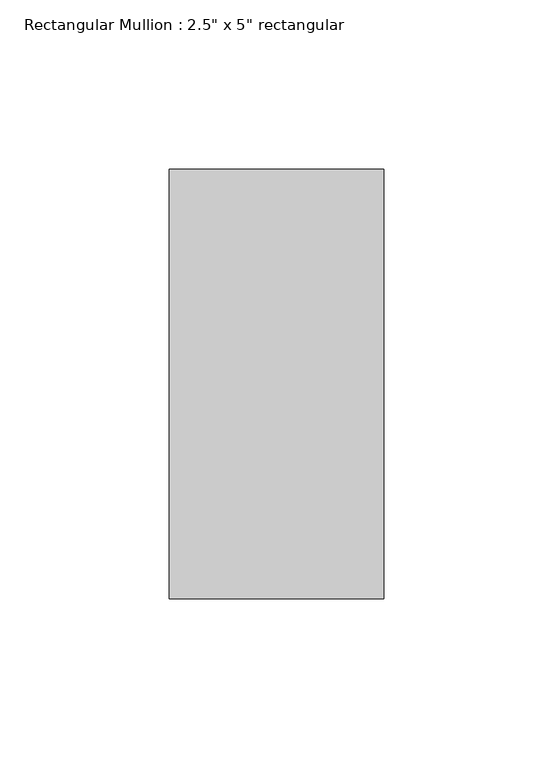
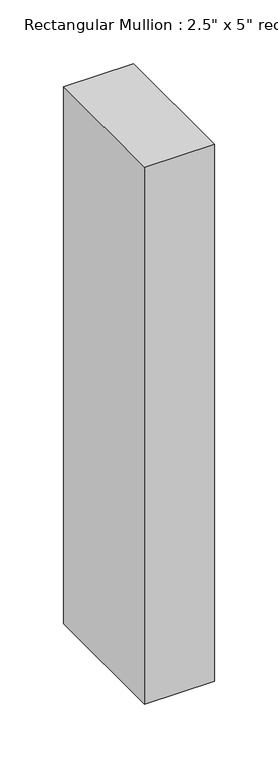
"""IFC4 building model written with IfcOpenShell, lengths in millimetres: member geometry."""

from ifc_helpers import new_model, si_unit, frame, origin, place, context, project, spatial, polyline, outline, extrude, source, transform, mapped, element, save


def member_aaa03826(model_context):
    return source(origin(), model_context, "Body", "SweptSolid", [
        extrude(outline(polyline([(31.75, 63.5), (31.75, -63.5), (-31.75, -63.5), (-31.75, 63.5), (31.75, 63.5)])), frame((0.0, 0.0, -514.35), z_axis=(0.0, 0.0, 1.0), x_axis=(1.0, 0.0, 0.0)), (0.0, 0.0, 1.0), 514.35),
    ])


if __name__ == "__main__":
    model = new_model("IFC4")
    model_context = context("Model", 3, world=origin())
    ifc_project = project(units=[si_unit("LENGTHUNIT", "METRE", prefix="MILLI")], contexts=[model_context])
    site = spatial("IfcSite", under=ifc_project)
    building = spatial("IfcBuilding", under=site)
    placement = place(None, origin())
    member_shape = member_aaa03826(model_context)
    element("IfcMember", 1, ObjectType="Rectangular Mullion : 2.5\" x 5\" rectangular", at=placement, inside=building, context=model_context, shape_type="MappedRepresentation", body=[
        mapped(member_shape, transform((0.0, 0.0, 0.0), x_axis=(1.0, 0.0, 0.0), y_axis=(0.0, 1.0, 0.0), z_axis=(0.0, 0.0, 1.0))),
    ])
    save(model, "model.ifc")
